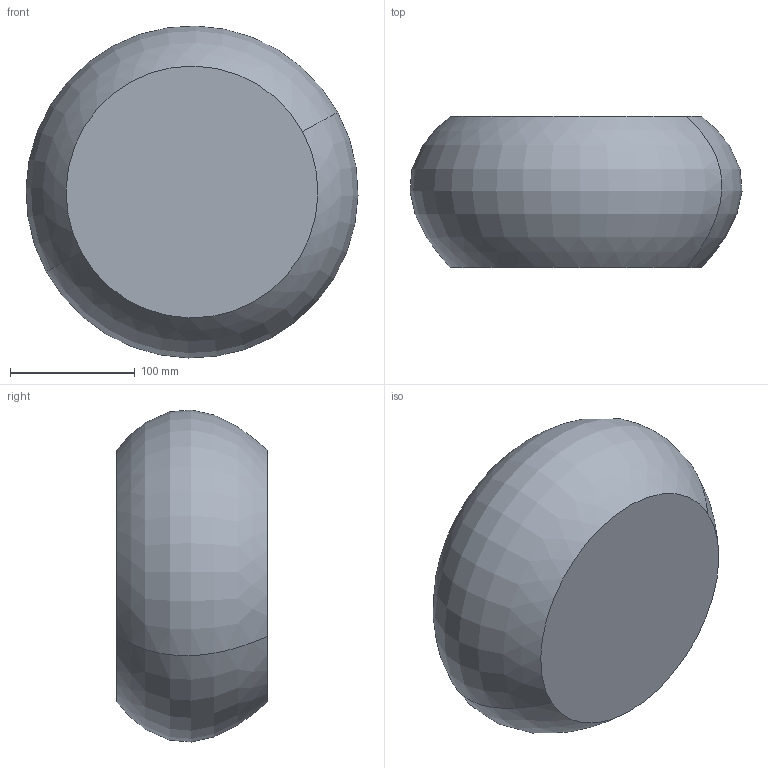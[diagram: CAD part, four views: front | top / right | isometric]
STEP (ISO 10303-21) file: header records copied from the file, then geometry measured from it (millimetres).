
FILE_DESCRIPTION(('CATIA V5 STEP Exchange'),'2;1');
FILE_NAME('C:\_Andres\UNIVERSIDAD\IQS\ASIGNATURAS\DAO\EXF\EXF-15161c\1original\Gual_Moseguí_Ej10-decora_v11.stp','2016-03-04T22:24:12+00:00',('none'),('none'),'CATIA Version 5 Release 20 SP 1 (IN-10)','CATIA V5 STEP AP203','none');
FILE_SCHEMA(('CONFIG_CONTROL_DESIGN'));
Length unit declared in the file: millimetre
Products named in the file (1): Gual_Moseguí_Ej10-decora_v11
Bounding box: 266.23 x 121 x 266.23 mm (x, y, z)
Volume: 5742594.5 mm3; surface area: 171804.1 mm2
Topology: 1 solids, 1 shells, 4 faces, 6 edges, 4 vertices
Faces by surface type: revolution 2, plane 2
Entity records: 166 total; most frequent: CARTESIAN_POINT 50, DIRECTION 12, ORIENTED_EDGE 12, AXIS2_PLACEMENT_3D 8, EDGE_CURVE 6, ADVANCED_FACE 4, B_SPLINE_CURVE_WITH_KNOTS 4, CC_DESIGN_PERSON_AND_ORGANIZATION_ASSIGNMENT 4
